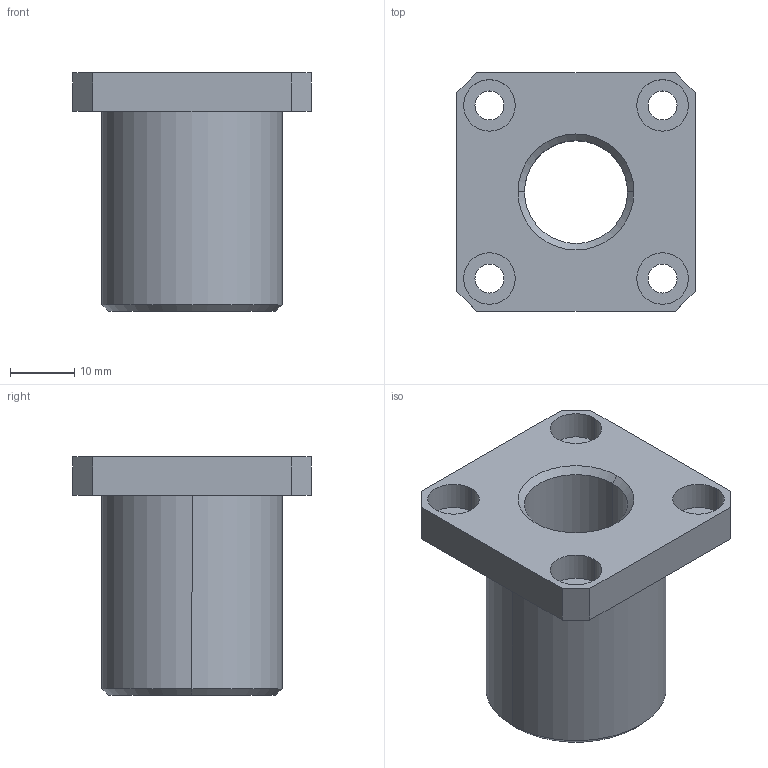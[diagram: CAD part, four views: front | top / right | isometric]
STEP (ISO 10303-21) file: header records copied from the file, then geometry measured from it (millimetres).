
FILE_DESCRIPTION (( 'STEP AP214' ), '1' );
FILE_NAME ('2.7049 Lineaarilaakeri LMK16UU.STEP', '2024-06-24T12:06:14', ( '' ), ( '' ), 'SwSTEP 2.0', 'SolidWorks 2024', '' );
FILE_SCHEMA (( 'AUTOMOTIVE_DESIGN' ));
Length unit declared in the file: millimetre
Products named in the file (1): 2.7049 Lineaarilaakeri LMK16UU
Bounding box: 37 x 37 x 37 mm (x, y, z)
Volume: 18695.2 mm3; surface area: 8054.8 mm2
Topology: 1 solids, 1 shells, 39 faces, 92 edges, 60 vertices
Faces by surface type: cylinder 20, plane 15, cone 4
Entity records: 1181 total; most frequent: DIRECTION 216, CARTESIAN_POINT 192, ORIENTED_EDGE 184, EDGE_CURVE 92, AXIS2_PLACEMENT_3D 84, VERTEX_POINT 60, EDGE_LOOP 54, LINE 48
